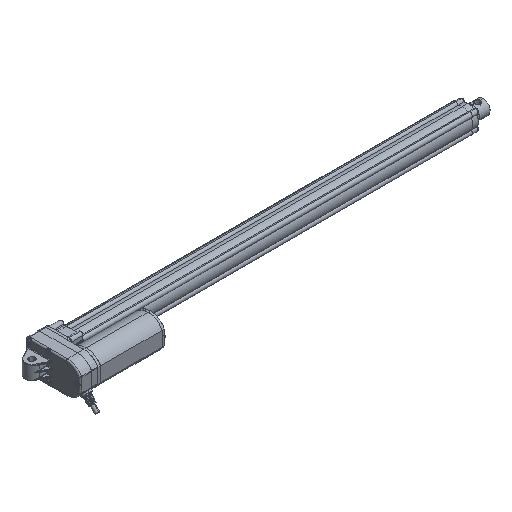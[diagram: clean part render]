
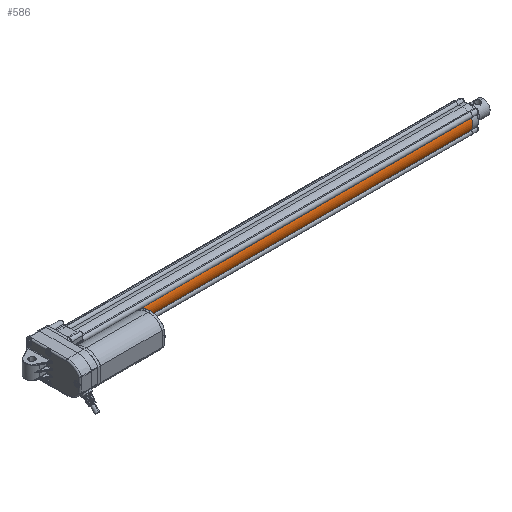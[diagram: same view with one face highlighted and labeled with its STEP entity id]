
A CAD part, isometric view. The second image highlights one B-rep face of the part: STEP entity #586.
In plain terms, the highlighted cylindrical face has radius 15 mm (diameter 30 mm), a partial arc.
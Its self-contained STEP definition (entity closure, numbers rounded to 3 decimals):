
#586=ADVANCED_FACE('',(#1861),#1862,.T.);
#1861=FACE_OUTER_BOUND('',#5513,.T.);
#1862=CYLINDRICAL_SURFACE('',#5514,15.0);
#5513=EDGE_LOOP('',(#11141,#11142,#11143,#11144));
#5514=AXIS2_PLACEMENT_3D('',#11145,#11146,#11147);
#11141=ORIENTED_EDGE('',*,*,#14265,.T.);
#11142=ORIENTED_EDGE('',*,*,#13938,.F.);
#11143=ORIENTED_EDGE('',*,*,#14268,.T.);
#11144=ORIENTED_EDGE('',*,*,#14271,.F.);
#11145=CARTESIAN_POINT('',(305.75,0.0,0.0));
#11146=DIRECTION('',(1.0,0.0,0.0));
#11147=DIRECTION('',(0.0,0.0,-1.0));
#13938=EDGE_CURVE('',#16599,#16589,#16601,.T.);
#14265=EDGE_CURVE('',#17126,#16589,#17127,.T.);
#14268=EDGE_CURVE('',#16599,#17129,#17131,.T.);
#14271=EDGE_CURVE('',#17126,#17129,#17135,.T.);
#16589=VERTEX_POINT('',#23947);
#16599=VERTEX_POINT('',#23957);
#16601=CIRCLE('',#23959,15.0);
#17126=VERTEX_POINT('',#25316);
#17127=LINE('',#25317,#25318);
#17129=VERTEX_POINT('',#25320);
#17131=LINE('',#25322,#25323);
#17135=CIRCLE('',#25327,15.0);
#23947=CARTESIAN_POINT('',(581.5,-12.94,-7.587));
#23957=CARTESIAN_POINT('',(581.5,-12.94,7.587));
#23959=AXIS2_PLACEMENT_3D('',#29525,#29526,#29527);
#25316=CARTESIAN_POINT('',(30.0,-12.94,-7.587));
#25317=CARTESIAN_POINT('',(305.75,-12.94,-7.587));
#25318=VECTOR('',#29909,1.0);
#25320=CARTESIAN_POINT('',(30.0,-12.94,7.587));
#25322=CARTESIAN_POINT('',(305.75,-12.94,7.587));
#25323=VECTOR('',#29916,1.0);
#25327=AXIS2_PLACEMENT_3D('',#29923,#29924,#29925);
#29525=CARTESIAN_POINT('',(581.5,0.0,0.0));
#29526=DIRECTION('',(1.0,0.0,0.0));
#29527=DIRECTION('',(0.0,0.0,-1.0));
#29909=DIRECTION('',(1.0,0.0,0.0));
#29916=DIRECTION('',(-1.0,-0.0,-0.0));
#29923=CARTESIAN_POINT('',(30.0,0.0,0.0));
#29924=DIRECTION('',(-1.0,-0.0,-0.0));
#29925=DIRECTION('',(0.0,0.0,-1.0));
